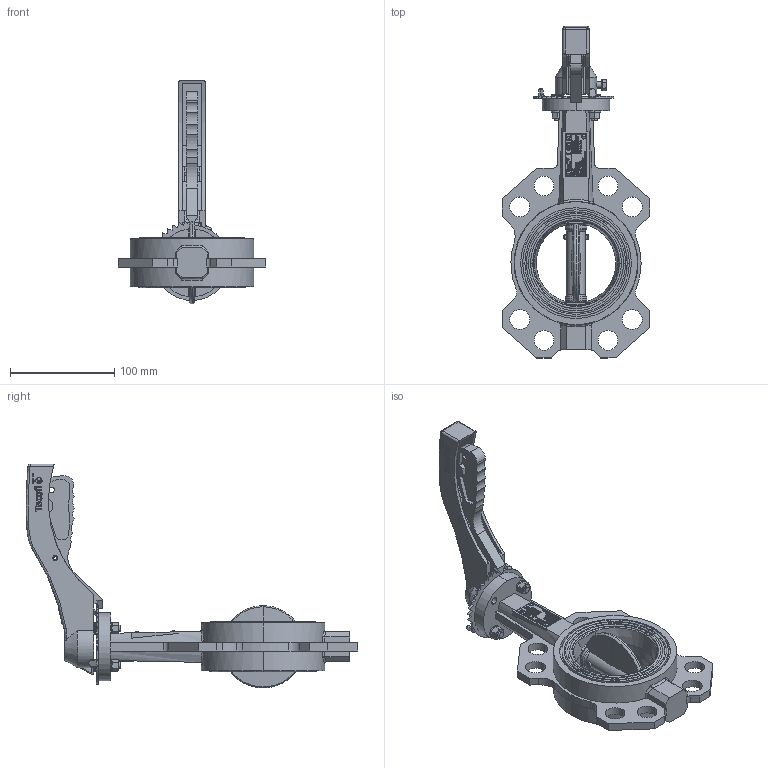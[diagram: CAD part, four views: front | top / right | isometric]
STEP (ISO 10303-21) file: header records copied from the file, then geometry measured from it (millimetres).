
FILE_DESCRIPTION (( 'STEP AP214' ), '1' );
FILE_NAME ('VPG444X-02XX0080-Défaut.step', '2022-05-19T16:21:11', ( '' ), ( '' ), 'SwSTEP 2.0', 'SolidWorks 2020', '' );
FILE_SCHEMA (( 'AUTOMOTIVE_DESIGN' ));
Length unit declared in the file: millimetre
Products named in the file (1): VPG444X-02XX0080-Défaut
Bounding box: 141.15 x 317.74 x 214.28 mm (x, y, z)
Surface area: 153294.3 mm2 (no closed solid volume)
Topology: 0 solids, 88 shells, 725 faces, 5350 edges, 4692 vertices
Faces by surface type: plane 413, cylinder 153, bspline 96, cone 58, torus 5
Entity records: 75733 total; most frequent: CARTESIAN_POINT 31593, ORIENTED_EDGE 6811, DIRECTION 5786, EDGE_CURVE 5346, VERTEX_POINT 4692, LINE 3434, VECTOR 3434, B_SPLINE_CURVE_WITH_KNOTS 1338
